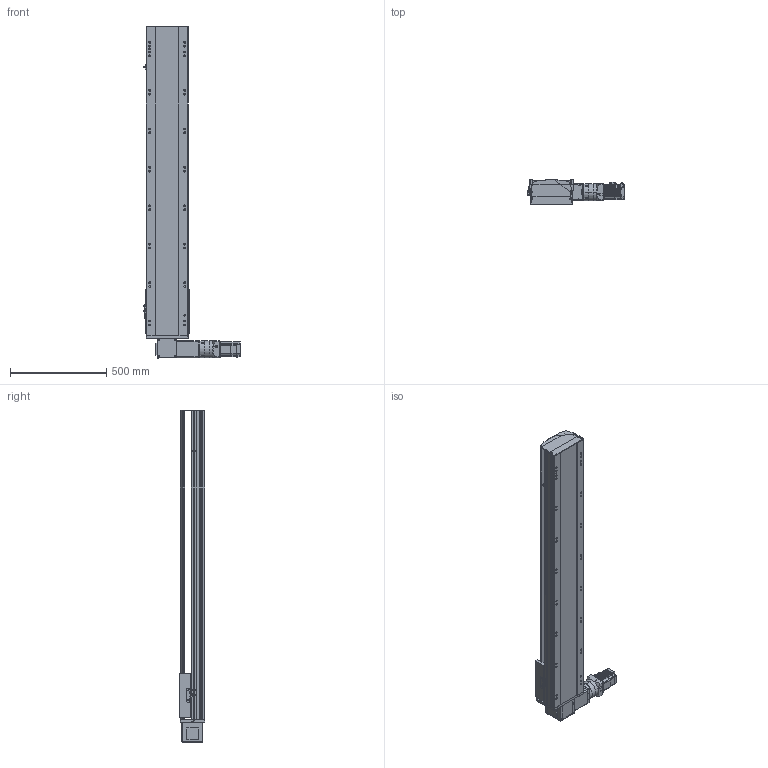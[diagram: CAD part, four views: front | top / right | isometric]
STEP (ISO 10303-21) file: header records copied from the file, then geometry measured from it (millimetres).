
FILE_DESCRIPTION (( 'STEP AP214' ), '1' );
FILE_NAME ('TPT22M-L100-1250-RT-PRF90-C4.STEP', '2023-04-12T07:06:57', ( '' ), ( '' ), 'SwSTEP 2.0', 'SolidWorks 2020', '' );
FILE_SCHEMA (( 'AUTOMOTIVE_DESIGN' ));
Length unit declared in the file: millimetre
Products named in the file (16): 葩璃 TPT22-L-002 奻裔MZ-220-02^TPT22M-L100-RT-PRF90-C4; 葩璃 TPT22-L-001 菁釱MZ-220-01^TPT22M-L100-RT-PRF90-C4; 葩璃 __________ M6x20.STEP^葩璃 PRF90-L1_TPT22M-L100-RT-PRF90-C4; 葩璃 ____-6007 35x62x14.STEP^葩璃 PRF90-L1_TPT22M-L100-RT-PRF90-C4; TPT22M-L100-1250-RT-PRF90-C4; 葩璃 PRF90-L1^TPT22M-L100-RT-PRF90-C4; 葩璃 pm-t65-672^TPT22M-L100-RT-PRF90-C4; 葩璃 PRF90 ______-_______________.STEP^葩璃 PRF90-L1_TPT22M-L100-RT-PRF90-C4; 葩璃 TPT22-L-007 々湍釱^TPT22M-L100-RT-PRF90-C4; 葩璃 PRF90 ___w_______.STEP^葩璃 PRF90-L1_TPT22M-L100-RT-PRF90-C4; 葩璃 PRF90 ___w___D6-90 D7-19 ____.STEP^葩璃 PRF90-L1_TPT22M-L100-RT-PRF90-C4; 葩璃 TPT22-L-005 賑釱MZ-220-03^TPT22M-L100-RT-PRF90-C4; 葩璃 萇儂釱 TPT22M^TPT22M-L100-RT-PRF90-C4; 葩璃 ______ 6x6x25.STEP^葩璃 PRF90-L1_TPT22M-L100-RT-PRF90-C4; 葩璃 MSMD08PC_P75^TPT22M-L100-RT-PRF90-C4; 葩璃 PRF90 ______-_____D8-70 D9-90 D10-M5 A2-90 L4-32 L6-47(32+15) L7-6 R-59.5____.STEP^葩璃 PRF90-L1_TPT22M-L100-RT-PRF90-C4
Assembly tree (17 placements, depth 3):
  TPT22M-L100-1250-RT-PRF90-C4
    葩璃 TPT22-L-001 菁釱MZ-220-01^TPT22M-L100-RT-PRF90-C4
    葩璃 TPT22-L-002 奻裔MZ-220-02^TPT22M-L100-RT-PRF90-C4
    葩璃 TPT22-L-005 賑釱MZ-220-03^TPT22M-L100-RT-PRF90-C4
    葩璃 TPT22-L-007 々湍釱^TPT22M-L100-RT-PRF90-C4
    葩璃 pm-t65-672^TPT22M-L100-RT-PRF90-C4  x3
    葩璃 萇儂釱 TPT22M^TPT22M-L100-RT-PRF90-C4
    葩璃 PRF90-L1^TPT22M-L100-RT-PRF90-C4
      葩璃 PRF90 ______-_____D8-70 D9-90 D10-M5 A2-90 L4-32 L6-47(32+15) L7-6 R-59.5____.STEP^葩璃 PRF90-L1_TPT22M-L100-RT-PRF90-C4
      葩璃 PRF90 ______-_______________.STEP^葩璃 PRF90-L1_TPT22M-L100-RT-PRF90-C4
      葩璃 PRF90 ___w_______.STEP^葩璃 PRF90-L1_TPT22M-L100-RT-PRF90-C4
      葩璃 PRF90 ___w___D6-90 D7-19 ____.STEP^葩璃 PRF90-L1_TPT22M-L100-RT-PRF90-C4
      葩璃 __________ M6x20.STEP^葩璃 PRF90-L1_TPT22M-L100-RT-PRF90-C4
      葩璃 ______ 6x6x25.STEP^葩璃 PRF90-L1_TPT22M-L100-RT-PRF90-C4
      葩璃 ____-6007 35x62x14.STEP^葩璃 PRF90-L1_TPT22M-L100-RT-PRF90-C4
    葩璃 MSMD08PC_P75^TPT22M-L100-RT-PRF90-C4
Bounding box: 505.7 x 134 x 1727 mm (x, y, z)
Volume: 24666454.9 mm3; surface area: 2573593 mm2
Topology: 21 solids, 21 shells, 2341 faces, 6295 edges, 4021 vertices
Faces by surface type: plane 1134, cylinder 865, cone 144, sphere 132, torus 52, bspline 14
Entity records: 75734 total; most frequent: CARTESIAN_POINT 18691, DIRECTION 11247, ORIENTED_EDGE 10934, EDGE_CURVE 5467, AXIS2_PLACEMENT_3D 4114, VERTEX_POINT 3571, VECTOR 3019, LINE 3019
